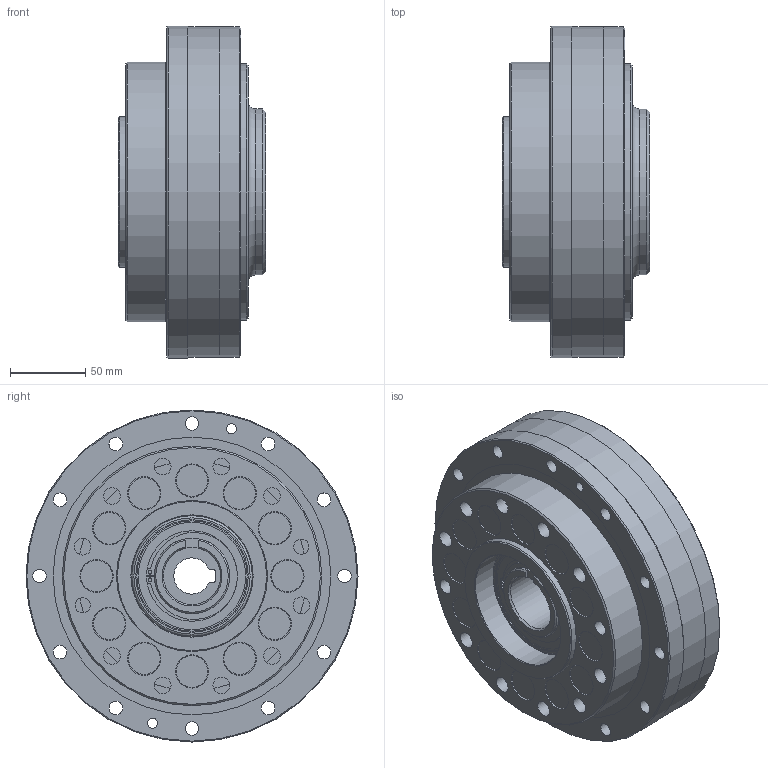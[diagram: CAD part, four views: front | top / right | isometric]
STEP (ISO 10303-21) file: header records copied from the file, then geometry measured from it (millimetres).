
FILE_DESCRIPTION(/* description */ ('Katalogmodell FC-A45G '),/* implementation_level */ '2;1');
FILE_NAME(/* name */ 'C:\Users\ADMINI~1\AppData\Local\Temp\MM16_01_04_Katalogmodell_FC-A45G_.stp',/* time_stamp */ '2018-06-12T17:13:05+02:00',/* author */ ('Max'),/* organization */ (''),/* preprocessor_version */ 'ST-DEVELOPER v17',/* originating_system */ 'Autodesk Inventor 2018',/* authorisation */ '');
FILE_SCHEMA (('AUTOMOTIVE_DESIGN { 1 0 10303 214 3 1 1 }'));
Length unit declared in the file: millimetre
Products named in the file (11): 16_01_04; MM554952-bg; 133247; MM133244; MM133418; 200418; 240K050----NG; 241K080----NG; M5006010RSSH2G; MM133259; 133242
Assembly tree (15 placements, depth 3):
  16_01_04
    MM554952-bg
      133247
      MM133244
      MM133418
      200418  x4
      240K050----NG  x2
      241K080----NG
      M5006010RSSH2G  x2
    MM133259
    133242
Bounding box: 97.5 x 220 x 220 mm (x, y, z)
Volume: 2302010.3 mm3; surface area: 409240.2 mm2
Topology: 42 solids, 44 shells, 403 faces, 1065 edges, 755 vertices
Faces by surface type: cylinder 189, plane 142, sphere 28, cone 27, torus 17
Full cylindrical faces by diameter (mm): 2.5 x4, 3 x2, 4.917 x4, 6 x4, 6.6 x4, 6.647 x2, 9 x26, 10 x4, 10.106 x2, 11 x14, 18 x12, 21 x12, 22 x12, 38 x1, 47 x2, 50 x6, 54 x1, 60 x8, 62 x1, 71.1 x4, 74 x1, 74.5 x4, 80 x6, 83.5 x1, 92 x1, 100 x1, 104 x1, 110 x1, 150 x1, 152 x1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
Entity records: 10441 total; most frequent: DIRECTION 1954, CARTESIAN_POINT 1705, ORIENTED_EDGE 1546, AXIS2_PLACEMENT_3D 861, EDGE_CURVE 773, VERTEX_POINT 573, CIRCLE 528, EDGE_LOOP 476
